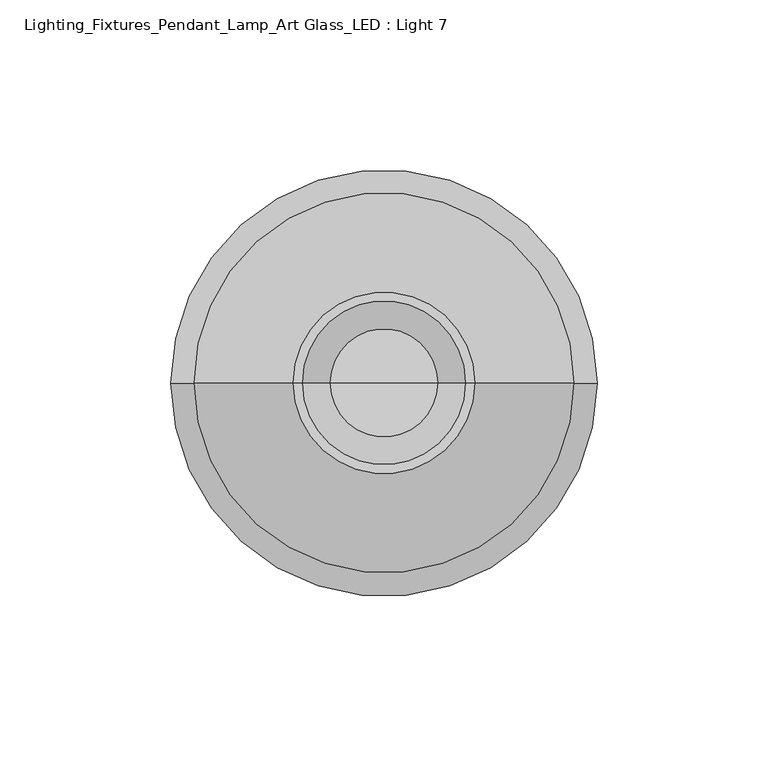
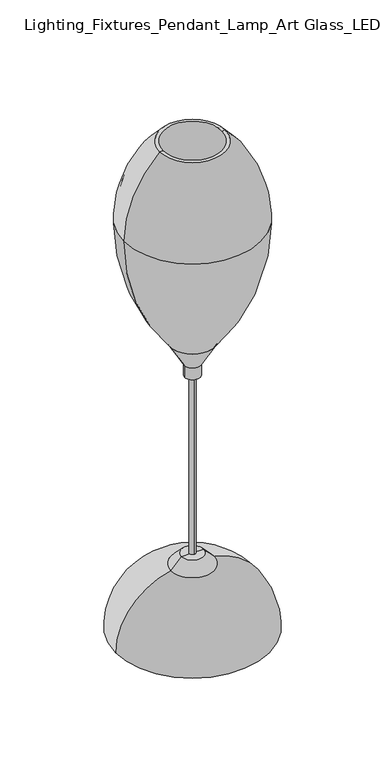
"""IFC4 building model written with IfcOpenShell, lengths in millimetres: light fixture geometry, Lighting_Fixtures_Pendant_Lamp_Art Glass_LED : Light 7."""

from ifc_helpers import new_model, si_unit, point, frame, frame_2d, origin, place, context, project, spatial, polyline, circle_curve, ellipse_curve, trimmed, segment, composite_curve, outline, extrude, source, transform, mapped, element, save
from ifc_brep_helpers import plane_surface, cylinder_surface, revolved_surface, advanced_brep


def lighting_fixtures_pendant_lamp_art_glass_led_light_7_c276613a(model_context):
    return source(origin(), model_context, "Body", "SolidModel", [
        advanced_brep(
        [(-19.1897668, 0.0, 246.38), (17.3638849, 0.0, 246.38), (14.9258339, 0.0, 246.38), (-16.7517158, 0.0, 246.38), (-56.475441, 0.0, 349.3409929), (54.649559, 0.0, 349.3409929), (-24.8838567, 0.0, 415.925), (23.0579748, 0.0, 415.925), (25.6239323, 0.0, 415.925), (-27.4498143, 0.0, 415.925), (53.3149972, 0.0, 349.3409929), (-55.1408791, 0.0, 349.3409929)],
        [
            (0, 1, circle_curve(frame((-0.912941, 0.0, 246.38), z_axis=(0.0, 0.0, -1.0), x_axis=(1.0, 0.0, 0.0)), 18.2768259)),
            (1, 2),
            (2, 3, circle_curve(frame((-0.912941, 0.0, 246.38), z_axis=(0.0, 0.0, 1.0), x_axis=(1.0, 0.0, 0.0)), 15.8387748)),
            (3, 0),
            (1, 0, circle_curve(frame((-0.912941, 0.0, 246.38), z_axis=(0.0, 0.0, -1.0), x_axis=(1.0, 0.0, 0.0)), 18.2768259)),
            (3, 2, circle_curve(frame((-0.912941, 0.0, 246.38), z_axis=(0.0, 0.0, 1.0), x_axis=(1.0, 0.0, 0.0)), 15.8387748)),
            (4, 5, circle_curve(frame((-0.912941, 0.0, 349.3409929), z_axis=(0.0, 0.0, -1.0), x_axis=(1.0, 0.0, 0.0)), 55.5625)),
            (5, 1, circle_curve(frame((-106.1519799, 0.0, 349.3409929), z_axis=(0.0, 1.0, 0.0), x_axis=(1.0, 0.0, 0.0)), 160.8015389)),
            (0, 4, circle_curve(frame((104.326098, 0.0, 349.3409929), z_axis=(0.0, 1.0, 0.0), x_axis=(-1.0, 0.0, 0.0)), 160.8015389)),
            (5, 4, circle_curve(frame((-0.912941, 0.0, 349.3409929), z_axis=(0.0, 0.0, -1.0), x_axis=(1.0, 0.0, 0.0)), 55.5625)),
            (6, 7, circle_curve(frame((-0.912941, 0.0, 415.925), z_axis=(0.0, 0.0, -1.0), x_axis=(1.0, 0.0, 0.0)), 23.9709158)),
            (7, 8),
            (8, 9, circle_curve(frame((-0.912941, 0.0, 415.925), z_axis=(0.0, 0.0, 1.0), x_axis=(1.0, 0.0, 0.0)), 26.5368733)),
            (9, 6),
            (7, 6, circle_curve(frame((-0.912941, 0.0, 415.925), z_axis=(0.0, 0.0, -1.0), x_axis=(1.0, 0.0, 0.0)), 23.9709158)),
            (9, 8, circle_curve(frame((-0.912941, 0.0, 415.925), z_axis=(0.0, 0.0, 1.0), x_axis=(1.0, 0.0, 0.0)), 26.5368733)),
            (2, 10, circle_curve(frame((-103.9519616, 0.0, 349.3409929), z_axis=(0.0, -1.0, 0.0), x_axis=(1.0, 0.0, 0.0)), 157.2669588)),
            (10, 11, circle_curve(frame((-0.912941, 0.0, 349.3409929), z_axis=(0.0, 0.0, 1.0), x_axis=(1.0, 0.0, 0.0)), 54.2279381)),
            (11, 3, circle_curve(frame((102.1260797, 0.0, 349.3409929), z_axis=(0.0, -1.0, 0.0), x_axis=(-1.0, 0.0, 0.0)), 157.2669588)),
            (11, 10, circle_curve(frame((-0.912941, 0.0, 349.3409929), z_axis=(0.0, 0.0, 1.0), x_axis=(1.0, 0.0, 0.0)), 54.2279381)),
            (8, 5, circle_curve(frame((-36.2342151, 0.0, 349.3409929), z_axis=(0.0, 1.0, 0.0), x_axis=(1.0, 0.0, 0.0)), 90.8837741)),
            (4, 9, circle_curve(frame((34.4083332, 0.0, 349.3409929), z_axis=(0.0, 1.0, 0.0), x_axis=(-1.0, 0.0, 0.0)), 90.8837741)),
            (10, 7, circle_curve(frame((-35.0763411, 0.0, 349.3409929), z_axis=(0.0, -1.0, 0.0), x_axis=(1.0, 0.0, 0.0)), 88.3913382)),
            (6, 11, circle_curve(frame((33.2504591, 0.0, 349.3409929), z_axis=(0.0, -1.0, 0.0), x_axis=(-1.0, 0.0, 0.0)), 88.3913382)),
        ],
        [
            plane_surface(frame((-0.912941, 0.0, 246.38), z_axis=(0.0, 0.0, -1.0), x_axis=(1.0, 0.0, 0.0))),
            revolved_surface(trimmed(ellipse_curve(frame((-106.1519799, 0.0, 349.3409929), z_axis=(0.0, -1.0, 0.0), x_axis=(1.0, 0.0, 0.0)), 160.8015389, 160.8015389), [point((17.3638849, 0.0, 246.38))], [point((54.649559, 0.0, 349.3409929))], True, "CARTESIAN"), (-0.912941, 0.0, 5992.1073186), (0.0, 0.0, 1.0)),
            plane_surface(frame((-0.912941, 0.0, 415.925), z_axis=(0.0, 0.0, 1.0), x_axis=(1.0, 0.0, 0.0))),
            revolved_surface(trimmed(ellipse_curve(frame((-103.9519616, 0.0, 349.3409929), z_axis=(0.0, 1.0, 0.0), x_axis=(1.0, 0.0, 0.0)), 157.2669588, 157.2669588), [point((53.3149972, 0.0, 349.3409929))], [point((14.9258339, 0.0, 246.38))], True, "CARTESIAN"), (-0.912941, 0.0, 5992.1073186), (0.0, 0.0, 1.0)),
            revolved_surface(trimmed(ellipse_curve(frame((-36.2342151, 0.0, 349.3409929), z_axis=(0.0, -1.0, 0.0), x_axis=(1.0, 0.0, 0.0)), 90.8837741, 90.8837741), [point((54.649559, 0.0, 349.3409929))], [point((25.6239323, 0.0, 415.925))], True, "CARTESIAN"), (-0.912941, 0.0, 5992.1073186), (0.0, 0.0, 1.0)),
            revolved_surface(trimmed(ellipse_curve(frame((-35.0763411, 0.0, 349.3409929), z_axis=(0.0, 1.0, 0.0), x_axis=(1.0, 0.0, 0.0)), 88.3913382, 88.3913382), [point((23.0579748, 0.0, 415.925))], [point((53.3149972, 0.0, 349.3409929))], True, "CARTESIAN"), (-0.912941, 0.0, 5992.1073186), (0.0, 0.0, 1.0)),
        ],
        [
            (0, [[1, 2, 3, 4]]),
            (0, [[5, -4, 6, -2]]),
            (1, [[7, 8, -1, 9]]),
            (1, [[10, -9, -5, -8]]),
            (2, [[11, 12, 13, 14]]),
            (2, [[15, -14, 16, -12]]),
            (3, [[-3, 17, 18, 19]]),
            (3, [[-6, -19, 20, -17]]),
            (4, [[-13, 21, -7, 22]]),
            (4, [[-16, -22, -10, -21]]),
            (5, [[-18, 23, -11, 24]]),
            (5, [[-20, -24, -15, -23]]),
        ],
    ),
        advanced_brep(
        [(-7.262941, 0.0, 225.7221316), (5.437059, 0.0, 225.7221316), (5.437059, 0.0, 215.9), (-7.262941, 0.0, 215.9), (-19.1897668, 0.0, 246.38), (17.3638849, 0.0, 246.38), (-0.912941, 0.0, 246.38), (-0.912941, 0.0, 215.9)],
        [
            (0, 1, circle_curve(frame((-0.912941, 0.0, 225.7221316), z_axis=(0.0, 0.0, -1.0), x_axis=(1.0, 0.0, 0.0)), 6.35)),
            (1, 2),
            (2, 3, circle_curve(frame((-0.912941, 0.0, 215.9), z_axis=(0.0, 0.0, 1.0), x_axis=(1.0, 0.0, 0.0)), 6.35)),
            (3, 0),
            (1, 0, circle_curve(frame((-0.912941, 0.0, 225.7221316), z_axis=(0.0, 0.0, -1.0), x_axis=(1.0, 0.0, 0.0)), 6.35)),
            (3, 2, circle_curve(frame((-0.912941, 0.0, 215.9), z_axis=(0.0, 0.0, 1.0), x_axis=(1.0, 0.0, 0.0)), 6.35)),
            (4, 5, circle_curve(frame((-0.912941, 0.0, 246.38), z_axis=(0.0, 0.0, -1.0), x_axis=(1.0, 0.0, 0.0)), 18.2768259)),
            (5, 1),
            (0, 4),
            (5, 4, circle_curve(frame((-0.912941, 0.0, 246.38), z_axis=(0.0, 0.0, -1.0), x_axis=(1.0, 0.0, 0.0)), 18.2768259)),
            (6, 5),
            (4, 6),
            (2, 7),
            (7, 3),
        ],
        [
            cylinder_surface(frame((-0.912941, 0.0, 5992.1073186), z_axis=(0.0, 0.0, 1.0), x_axis=(1.0, 0.0, 0.0)), 6.35),
            revolved_surface(polyline([(5.437059, 0.0, 225.7221316), (17.3638849, 0.0, 246.38)]), (-0.912941, 0.0, 5992.1073186), (0.0, 0.0, 1.0)),
            plane_surface(frame((-0.912941, 0.0, 246.38), z_axis=(0.0, 0.0, 1.0), x_axis=(1.0, 0.0, 0.0))),
            plane_surface(frame((-0.912941, 0.0, 215.9), z_axis=(0.0, 0.0, -1.0), x_axis=(1.0, 0.0, 0.0))),
        ],
        [
            (0, [[1, 2, 3, 4]]),
            (0, [[5, -4, 6, -2]]),
            (1, [[7, 8, -1, 9]]),
            (1, [[10, -9, -5, -8]]),
            (2, [[11, -7, 12]]),
            (2, [[-12, -10, -11]]),
            (3, [[-3, 13, 14]]),
            (3, [[-6, -14, -13]]),
        ],
    ),
        advanced_brep(
        [(-18.6253579, 0.0, 54.4766065), (16.799476, 0.0, 54.4766065), (61.4307936, 0.0, 0.0), (-63.2566756, 0.0, 0.0), (-0.912941, 0.0, 0.0), (-10.0214773, 0.0, 63.5), (8.1955954, 0.0, 63.5), (-0.912941, 0.0, 63.5)],
        [
            (0, 1, circle_curve(frame((-0.912941, 0.0, 54.4766065), z_axis=(0.0, 0.0, -1.0), x_axis=(1.0, 0.0, 0.0)), 17.712417)),
            (1, 2, circle_curve(frame((5.8682936, 0.0, 0.0), z_axis=(0.0, 1.0, 0.0), x_axis=(1.0, 0.0, 0.0)), 55.5625)),
            (2, 3, circle_curve(frame((-0.912941, 0.0, 0.0), z_axis=(0.0, 0.0, 1.0), x_axis=(1.0, 0.0, 0.0)), 62.3437346)),
            (3, 0, circle_curve(frame((-7.6941756, 0.0, 0.0), z_axis=(0.0, 1.0, 0.0), x_axis=(-1.0, 0.0, 0.0)), 55.5625)),
            (1, 0, circle_curve(frame((-0.912941, 0.0, 54.4766065), z_axis=(0.0, 0.0, -1.0), x_axis=(1.0, 0.0, 0.0)), 17.712417)),
            (3, 2, circle_curve(frame((-0.912941, 0.0, 0.0), z_axis=(0.0, 0.0, 1.0), x_axis=(1.0, 0.0, 0.0)), 62.3437346)),
            (2, 4),
            (4, 3),
            (5, 6, circle_curve(frame((-0.912941, 0.0, 63.5), z_axis=(0.0, 0.0, -1.0), x_axis=(1.0, 0.0, 0.0)), 9.1085364)),
            (6, 1),
            (0, 5),
            (6, 5, circle_curve(frame((-0.912941, 0.0, 63.5), z_axis=(0.0, 0.0, -1.0), x_axis=(1.0, 0.0, 0.0)), 9.1085364)),
            (7, 6),
            (5, 7),
        ],
        [
            revolved_surface(trimmed(ellipse_curve(frame((5.8682936, 0.0, 0.0), z_axis=(0.0, -1.0, 0.0), x_axis=(1.0, 0.0, 0.0)), 55.5625, 55.5625), [point((61.4307936, 0.0, 0.0))], [point((16.799476, 0.0, 54.4766065))], True, "CARTESIAN"), (-0.912941, 0.0, 640.3471624), (0.0, 0.0, 1.0)),
            plane_surface(frame((-0.912941, 0.0, 0.0), z_axis=(0.0, 0.0, -1.0), x_axis=(1.0, 0.0, 0.0))),
            revolved_surface(polyline([(16.799476, 0.0, 54.4766065), (8.1955954, 0.0, 63.5)]), (-0.912941, 0.0, 640.3471624), (0.0, 0.0, 1.0)),
            plane_surface(frame((-0.912941, 0.0, 63.5), z_axis=(0.0, 0.0, 1.0), x_axis=(1.0, 0.0, 0.0))),
        ],
        [
            (0, [[1, 2, 3, 4]]),
            (0, [[5, -4, 6, -2]]),
            (1, [[-3, 7, 8]]),
            (1, [[-6, -8, -7]]),
            (2, [[9, 10, -1, 11]]),
            (2, [[12, -11, -5, -10]]),
            (3, [[13, -9, 14]]),
            (3, [[-14, -12, -13]]),
        ],
    ),
        extrude(outline(composite_curve([segment(trimmed(circle_curve(frame_2d((-0.912941, 0.0)), 2.54), [point((-0.912941, 2.54))], [point((-0.912941, -2.54))], False, "CARTESIAN"), True, "CONTINUOUS"), segment(trimmed(circle_curve(frame_2d((-0.912941, 0.0)), 2.54), [point((-0.912941, -2.54))], [point((-0.912941, 2.54))], False, "CARTESIAN"), True, "CONTINUOUS")], self_intersect=False)), frame((0.0, 0.0, 63.5), z_axis=(0.0, 0.0, 1.0), x_axis=(1.0, 0.0, 0.0)), (0.0, 0.0, 1.0), 152.4),
    ])


if __name__ == "__main__":
    model = new_model("IFC4")
    model_context = context("Model", 3, world=origin())
    ifc_project = project(units=[si_unit("LENGTHUNIT", "METRE", prefix="MILLI")], contexts=[model_context])
    site = spatial("IfcSite", under=ifc_project)
    building = spatial("IfcBuilding", under=site)
    placement = place(None, origin())
    lighting_fixtures_pendant_lamp_art_glass_led_light_7_shape = lighting_fixtures_pendant_lamp_art_glass_led_light_7_c276613a(model_context)
    element("IfcLightFixture", 1, ObjectType="Lighting_Fixtures_Pendant_Lamp_Art Glass_LED : Light 7", at=placement, inside=building, context=model_context, shape_type="MappedRepresentation", body=[
        mapped(lighting_fixtures_pendant_lamp_art_glass_led_light_7_shape, transform((0.0, 0.0, 0.0), x_axis=(1.0, 0.0, 0.0), y_axis=(0.0, 1.0, 0.0), z_axis=(0.0, 0.0, 1.0))),
    ])
    save(model, "model.ifc")
